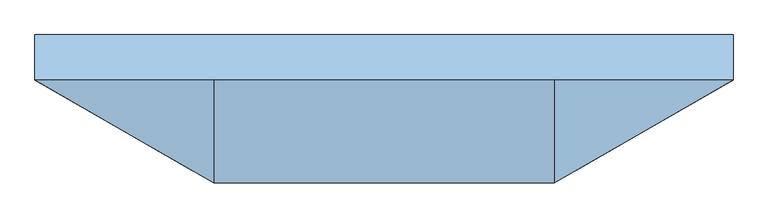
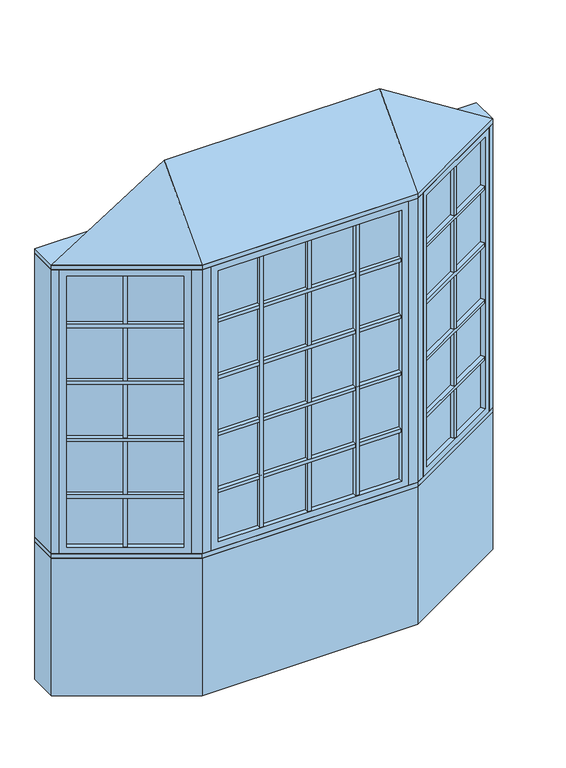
"""IFC4 building model written with IfcOpenShell, lengths in millimetres: window geometry, Pollard_Windows_Tudor Casement Bows and Bays : AML-BAY 30 AFR0616-12-600_GC."""

from ifc_helpers import new_model, si_unit, frame, origin, origin_with_axes, place, context, project, spatial, polyline, outline, extrude, faceted_brep, source, transform, mapped, element, save


def window_1ecaf045(model_context):
    return source(origin(), model_context, "Body", "SolidModel", [
        extrude(outline(polyline([(646.881999, -376.6297343), (635.881999, -357.5771754), (1102.1135794, -88.3982469), (1113.1135794, -107.4508058), (646.881999, -376.6297343)])), frame((0.0, 0.0, 1110.998), z_axis=(0.0, 0.0, 1.0), x_axis=(1.0, 0.0, 0.0)), (0.0, 0.0, 1.0), 18.0),
        extrude(outline(polyline([(633.341999, -353.1777664), (622.341999, -334.1252075), (1088.5735794, -64.946279), (1099.5735794, -83.9988379), (633.341999, -353.1777664)])), frame((0.0, 0.0, 1110.998), z_axis=(0.0, 0.0, 1.0), x_axis=(1.0, 0.0, 0.0)), (0.0, 0.0, 1.0), 18.0),
        extrude(outline(polyline([(646.881999, -376.6297343), (635.881999, -357.5771754), (1102.1135794, -88.3982469), (1113.1135794, -107.4508058), (646.881999, -376.6297343)])), frame((0.0, 0.0, 1430.998), z_axis=(0.0, 0.0, 1.0), x_axis=(1.0, 0.0, 0.0)), (0.0, 0.0, 1.0), 18.0),
        extrude(outline(polyline([(633.341999, -353.1777664), (622.341999, -334.1252075), (1088.5735794, -64.946279), (1099.5735794, -83.9988379), (633.341999, -353.1777664)])), frame((0.0, 0.0, 1430.998), z_axis=(0.0, 0.0, 1.0), x_axis=(1.0, 0.0, 0.0)), (0.0, 0.0, 1.0), 18.0),
        extrude(outline(polyline([(646.881999, -376.6297343), (635.881999, -357.5771754), (1102.1135794, -88.3982469), (1113.1135794, -107.4508058), (646.881999, -376.6297343)])), frame((0.0, 0.0, 1750.998), z_axis=(0.0, 0.0, 1.0), x_axis=(1.0, 0.0, 0.0)), (0.0, 0.0, 1.0), 18.0),
        extrude(outline(polyline([(633.341999, -353.1777664), (622.341999, -334.1252075), (1088.5735794, -64.946279), (1099.5735794, -83.9988379), (633.341999, -353.1777664)])), frame((0.0, 0.0, 1750.998), z_axis=(0.0, 0.0, 1.0), x_axis=(1.0, 0.0, 0.0)), (0.0, 0.0, 1.0), 18.0),
        extrude(outline(polyline([(646.881999, -376.6297343), (635.881999, -357.5771754), (1102.1135794, -88.3982469), (1113.1135794, -107.4508058), (646.881999, -376.6297343)])), frame((0.0, 0.0, 2070.998), z_axis=(0.0, 0.0, 1.0), x_axis=(1.0, 0.0, 0.0)), (0.0, 0.0, 1.0), 18.0),
        extrude(outline(polyline([(633.341999, -353.1777664), (622.341999, -334.1252075), (1088.5735794, -64.946279), (1099.5735794, -83.9988379), (633.341999, -353.1777664)])), frame((0.0, 0.0, 2070.998), z_axis=(0.0, 0.0, 1.0), x_axis=(1.0, 0.0, 0.0)), (0.0, 0.0, 1.0), 18.0),
        extrude(outline(polyline([(876.7920178, -218.4877112), (887.7920178, -237.5402701), (872.2035606, -246.5402701), (861.2035606, -227.4877112), (876.7920178, -218.4877112)])), frame((0.0, 0.0, 835.8628), z_axis=(0.0, 0.0, 1.0), x_axis=(1.0, 0.0, 0.0)), (0.0, 0.0, 1.0), 1528.2704),
        extrude(outline(polyline([(874.2520178, -214.0883021), (858.6635606, -223.0883021), (847.6635606, -204.0357432), (863.2520178, -195.0357432), (874.2520178, -214.0883021)])), frame((0.0, 0.0, 835.8628), z_axis=(0.0, 0.0, 1.0), x_axis=(1.0, 0.0, 0.0)), (0.0, 0.0, 1.0), 1528.2704),
        extrude(outline(polyline([(1113.112102, -82.0482469), (624.8834764, -363.9271754), (622.3434764, -359.5277664), (1110.572102, -77.6488379), (1113.112102, -82.0482469)])), frame((0.0, 0.0, 823.1628), z_axis=(0.0, 0.0, 1.0), x_axis=(1.0, 0.0, 0.0)), (0.0, 0.0, 1.0), 1553.6704),
        faceted_brep([(1102.1135794, -88.3982469, 835.8628), (1114.8135794, -110.3952922, 835.8628), (1114.8135794, -110.3952922, 2364.1332), (1102.1135794, -88.3982469, 2364.1332), (1110.572102, -77.6488379, 823.1628), (1113.112102, -82.0482469, 823.1628), (1113.112102, -82.0482469, 2376.8332), (1110.572102, -77.6488379, 2376.8332), (1086.8735794, -62.0017926, 835.8628), (1099.5735794, -83.9988379, 835.8628), (1099.5735794, -83.9988379, 2364.1332), (1086.8735794, -62.0017926, 2364.1332), (1145.8734073, -92.4628922, 799.998), (1117.9334073, -44.0693926, 799.998), (1117.9334073, -44.0693926, 2399.998), (1145.8734073, -92.4628922, 2399.998), (648.581999, -379.5742207, 2364.1332), (635.881999, -357.5771754, 2364.1332), (624.8834764, -363.9271754, 2376.8332), (622.3434764, -359.5277664, 2376.8332), (633.341999, -353.1777664, 2364.1332), (620.641999, -331.1807211, 2364.1332), (589.5821711, -349.1131211, 2399.998), (617.5221711, -397.5066207, 2399.998), (648.581999, -379.5742207, 835.8628), (635.881999, -357.5771754, 835.8628), (624.8834764, -363.9271754, 823.1628), (622.3434764, -359.5277664, 823.1628), (633.341999, -353.1777664, 835.8628), (620.641999, -331.1807211, 835.8628), (589.5821711, -349.1131211, 799.998), (617.5221711, -397.5066207, 799.998)], [[[0, 1, 2, 3]], [[4, 5, 6, 7]], [[8, 9, 10, 11]], [[12, 13, 14, 15]], [[3, 2, 16, 17]], [[7, 6, 18, 19]], [[11, 10, 20, 21]], [[15, 14, 22, 23]], [[17, 16, 24, 25]], [[19, 18, 26, 27]], [[21, 20, 28, 29]], [[23, 22, 30, 31]], [[25, 24, 1, 0]], [[5, 26, 18, 6], [3, 17, 25, 0]], [[27, 26, 5, 4]], [[7, 19, 27, 4], [9, 28, 20, 10]], [[29, 28, 9, 8]], [[13, 30, 22, 14], [11, 21, 29, 8]], [[31, 30, 13, 12]], [[15, 23, 31, 12], [1, 24, 16, 2]]]),
        extrude(outline(polyline([(264.0281504, -397.1066207), (264.0281504, -419.1066207), (246.0281504, -419.1066207), (246.0281504, -397.1066207), (264.0281504, -397.1066207)])), frame((0.0, 0.0, 835.8628), z_axis=(0.0, 0.0, 1.0), x_axis=(1.0, 0.0, 0.0)), (0.0, 0.0, 1.0), 1528.2704),
        extrude(outline(polyline([(264.0281504, -392.0266207), (246.0281504, -392.0266207), (246.0281504, -370.0266207), (264.0281504, -370.0266207), (264.0281504, -392.0266207)])), frame((0.0, 0.0, 835.8628), z_axis=(0.0, 0.0, 1.0), x_axis=(1.0, 0.0, 0.0)), (0.0, 0.0, 1.0), 1528.2704),
        extrude(outline(polyline([(-246.0281504, -397.1066207), (-246.0281504, -419.1066207), (-264.0281504, -419.1066207), (-264.0281504, -397.1066207), (-246.0281504, -397.1066207)])), frame((0.0, 0.0, 835.8628), z_axis=(0.0, 0.0, 1.0), x_axis=(1.0, 0.0, 0.0)), (0.0, 0.0, 1.0), 1528.2704),
        extrude(outline(polyline([(-246.0281504, -392.0266207), (-264.0281504, -392.0266207), (-264.0281504, -370.0266207), (-246.0281504, -370.0266207), (-246.0281504, -392.0266207)])), frame((0.0, 0.0, 835.8628), z_axis=(0.0, 0.0, 1.0), x_axis=(1.0, 0.0, 0.0)), (0.0, 0.0, 1.0), 1528.2704),
        extrude(outline(polyline([(-488.3561009, -419.1066207), (-488.3561009, -397.1066207), (488.3561009, -397.1066207), (488.3561009, -419.1066207), (-488.3561009, -419.1066207)])), frame((0.0, 0.0, 1110.998), z_axis=(0.0, 0.0, 1.0), x_axis=(1.0, 0.0, 0.0)), (0.0, 0.0, 1.0), 18.0),
        extrude(outline(polyline([(-488.3561009, -392.0266207), (-488.3561009, -370.0266207), (488.3561009, -370.0266207), (488.3561009, -392.0266207), (-488.3561009, -392.0266207)])), frame((0.0, 0.0, 1110.998), z_axis=(0.0, 0.0, 1.0), x_axis=(1.0, 0.0, 0.0)), (0.0, 0.0, 1.0), 18.0),
        extrude(outline(polyline([(-488.3561009, -419.1066207), (-488.3561009, -397.1066207), (488.3561009, -397.1066207), (488.3561009, -419.1066207), (-488.3561009, -419.1066207)])), frame((0.0, 0.0, 1430.998), z_axis=(0.0, 0.0, 1.0), x_axis=(1.0, 0.0, 0.0)), (0.0, 0.0, 1.0), 18.0),
        extrude(outline(polyline([(-488.3561009, -392.0266207), (-488.3561009, -370.0266207), (488.3561009, -370.0266207), (488.3561009, -392.0266207), (-488.3561009, -392.0266207)])), frame((0.0, 0.0, 1430.998), z_axis=(0.0, 0.0, 1.0), x_axis=(1.0, 0.0, 0.0)), (0.0, 0.0, 1.0), 18.0),
        extrude(outline(polyline([(-488.3561009, -419.1066207), (-488.3561009, -397.1066207), (488.3561009, -397.1066207), (488.3561009, -419.1066207), (-488.3561009, -419.1066207)])), frame((0.0, 0.0, 1750.998), z_axis=(0.0, 0.0, 1.0), x_axis=(1.0, 0.0, 0.0)), (0.0, 0.0, 1.0), 18.0),
        extrude(outline(polyline([(-488.3561009, -392.0266207), (-488.3561009, -370.0266207), (488.3561009, -370.0266207), (488.3561009, -392.0266207), (-488.3561009, -392.0266207)])), frame((0.0, 0.0, 1750.998), z_axis=(0.0, 0.0, 1.0), x_axis=(1.0, 0.0, 0.0)), (0.0, 0.0, 1.0), 18.0),
        extrude(outline(polyline([(-1113.1135794, -107.4508058), (-1102.1135794, -88.3982469), (-635.881999, -357.5771754), (-646.881999, -376.6297343), (-1113.1135794, -107.4508058)])), frame((0.0, 0.0, 1110.998), z_axis=(0.0, 0.0, 1.0), x_axis=(1.0, 0.0, 0.0)), (0.0, 0.0, 1.0), 18.0),
        extrude(outline(polyline([(-1099.5735794, -83.9988379), (-1088.5735794, -64.946279), (-622.341999, -334.1252075), (-633.341999, -353.1777664), (-1099.5735794, -83.9988379)])), frame((0.0, 0.0, 1110.998), z_axis=(0.0, 0.0, 1.0), x_axis=(1.0, 0.0, 0.0)), (0.0, 0.0, 1.0), 18.0),
        extrude(outline(polyline([(-1113.1135794, -107.4508058), (-1102.1135794, -88.3982469), (-635.881999, -357.5771754), (-646.881999, -376.6297343), (-1113.1135794, -107.4508058)])), frame((0.0, 0.0, 1430.998), z_axis=(0.0, 0.0, 1.0), x_axis=(1.0, 0.0, 0.0)), (0.0, 0.0, 1.0), 18.0),
        extrude(outline(polyline([(-1099.5735794, -83.9988379), (-1088.5735794, -64.946279), (-622.341999, -334.1252075), (-633.341999, -353.1777664), (-1099.5735794, -83.9988379)])), frame((0.0, 0.0, 1430.998), z_axis=(0.0, 0.0, 1.0), x_axis=(1.0, 0.0, 0.0)), (0.0, 0.0, 1.0), 18.0),
        extrude(outline(polyline([(-1113.1135794, -107.4508058), (-1102.1135794, -88.3982469), (-635.881999, -357.5771754), (-646.881999, -376.6297343), (-1113.1135794, -107.4508058)])), frame((0.0, 0.0, 1750.998), z_axis=(0.0, 0.0, 1.0), x_axis=(1.0, 0.0, 0.0)), (0.0, 0.0, 1.0), 18.0),
        extrude(outline(polyline([(-1099.5735794, -83.9988379), (-1088.5735794, -64.946279), (-622.341999, -334.1252075), (-633.341999, -353.1777664), (-1099.5735794, -83.9988379)])), frame((0.0, 0.0, 1750.998), z_axis=(0.0, 0.0, 1.0), x_axis=(1.0, 0.0, 0.0)), (0.0, 0.0, 1.0), 18.0),
        extrude(outline(polyline([(-1113.1135794, -107.4508058), (-1102.1135794, -88.3982469), (-635.881999, -357.5771754), (-646.881999, -376.6297343), (-1113.1135794, -107.4508058)])), frame((0.0, 0.0, 2070.998), z_axis=(0.0, 0.0, 1.0), x_axis=(1.0, 0.0, 0.0)), (0.0, 0.0, 1.0), 18.0),
        extrude(outline(polyline([(-1099.5735794, -83.9988379), (-1088.5735794, -64.946279), (-622.341999, -334.1252075), (-633.341999, -353.1777664), (-1099.5735794, -83.9988379)])), frame((0.0, 0.0, 2070.998), z_axis=(0.0, 0.0, 1.0), x_axis=(1.0, 0.0, 0.0)), (0.0, 0.0, 1.0), 18.0),
        extrude(outline(polyline([(-488.3561009, -419.1066207), (-488.3561009, -397.1066207), (488.3561009, -397.1066207), (488.3561009, -419.1066207), (-488.3561009, -419.1066207)])), frame((0.0, 0.0, 2070.998), z_axis=(0.0, 0.0, 1.0), x_axis=(1.0, 0.0, 0.0)), (0.0, 0.0, 1.0), 18.0),
        extrude(outline(polyline([(-488.3561009, -392.0266207), (-488.3561009, -370.0266207), (488.3561009, -370.0266207), (488.3561009, -392.0266207), (-488.3561009, -392.0266207)])), frame((0.0, 0.0, 2070.998), z_axis=(0.0, 0.0, 1.0), x_axis=(1.0, 0.0, 0.0)), (0.0, 0.0, 1.0), 18.0),
        extrude(outline(polyline([(-861.2035606, -227.4877112), (-872.2035606, -246.5402701), (-887.7920178, -237.5402701), (-876.7920178, -218.4877112), (-861.2035606, -227.4877112)])), frame((0.0, 0.0, 835.8628), z_axis=(0.0, 0.0, 1.0), x_axis=(1.0, 0.0, 0.0)), (0.0, 0.0, 1.0), 1528.2704),
        extrude(outline(polyline([(-858.6635606, -223.0883021), (-874.2520178, -214.0883021), (-863.2520178, -195.0357432), (-847.6635606, -204.0357432), (-858.6635606, -223.0883021)])), frame((0.0, 0.0, 835.8628), z_axis=(0.0, 0.0, 1.0), x_axis=(1.0, 0.0, 0.0)), (0.0, 0.0, 1.0), 1528.2704),
        extrude(outline(polyline([(9.0, -397.1066207), (9.0, -419.1066207), (-9.0, -419.1066207), (-9.0, -397.1066207), (9.0, -397.1066207)])), frame((0.0, 0.0, 835.8628), z_axis=(0.0, 0.0, 1.0), x_axis=(1.0, 0.0, 0.0)), (0.0, 0.0, 1.0), 1528.2704),
        extrude(outline(polyline([(9.0, -392.0266207), (-9.0, -392.0266207), (-9.0, -370.0266207), (9.0, -370.0266207), (9.0, -392.0266207)])), frame((0.0, 0.0, 835.8628), z_axis=(0.0, 0.0, 1.0), x_axis=(1.0, 0.0, 0.0)), (0.0, 0.0, 1.0), 1528.2704),
        extrude(outline(polyline([(-624.8834764, -363.9271754), (-1113.112102, -82.0482469), (-1110.572102, -77.6488379), (-622.3434764, -359.5277664), (-624.8834764, -363.9271754)])), frame((0.0, 0.0, 823.1628), z_axis=(0.0, 0.0, 1.0), x_axis=(1.0, 0.0, 0.0)), (0.0, 0.0, 1.0), 1553.6704),
        faceted_brep([(-633.341999, -353.1777664, 2364.1332), (-620.641999, -331.1807211, 2364.1332), (-620.641999, -331.1807211, 835.8628), (-633.341999, -353.1777664, 835.8628), (-624.8834764, -363.9271754, 2376.8332), (-622.3434764, -359.5277664, 2376.8332), (-622.3434764, -359.5277664, 823.1628), (-624.8834764, -363.9271754, 823.1628), (-648.581999, -379.5742207, 2364.1332), (-635.881999, -357.5771754, 2364.1332), (-635.881999, -357.5771754, 835.8628), (-648.581999, -379.5742207, 835.8628), (-589.5821711, -349.1131211, 2399.998), (-617.5221711, -397.5066207, 2399.998), (-617.5221711, -397.5066207, 799.998), (-589.5821711, -349.1131211, 799.998), (-1086.8735794, -62.0017926, 835.8628), (-1099.5735794, -83.9988379, 835.8628), (-1110.572102, -77.6488379, 823.1628), (-1113.112102, -82.0482469, 823.1628), (-1102.1135794, -88.3982469, 835.8628), (-1114.8135794, -110.3952922, 835.8628), (-1145.8734073, -92.4628922, 799.998), (-1117.9334073, -44.0693926, 799.998), (-1086.8735794, -62.0017926, 2364.1332), (-1099.5735794, -83.9988379, 2364.1332), (-1110.572102, -77.6488379, 2376.8332), (-1113.112102, -82.0482469, 2376.8332), (-1102.1135794, -88.3982469, 2364.1332), (-1114.8135794, -110.3952922, 2364.1332), (-1145.8734073, -92.4628922, 2399.998), (-1117.9334073, -44.0693926, 2399.998)], [[[0, 1, 2, 3]], [[4, 5, 6, 7]], [[8, 9, 10, 11]], [[12, 13, 14, 15]], [[3, 2, 16, 17]], [[7, 6, 18, 19]], [[11, 10, 20, 21]], [[15, 14, 22, 23]], [[17, 16, 24, 25]], [[19, 18, 26, 27]], [[21, 20, 28, 29]], [[23, 22, 30, 31]], [[15, 23, 31, 12], [1, 24, 16, 2]], [[25, 24, 1, 0]], [[5, 26, 18, 6], [3, 17, 25, 0]], [[27, 26, 5, 4]], [[7, 19, 27, 4], [9, 28, 20, 10]], [[29, 28, 9, 8]], [[13, 30, 22, 14], [11, 21, 29, 8]], [[31, 30, 13, 12]]]),
        extrude(outline(polyline([(501.0561009, -397.1066207), (-501.0561009, -397.1066207), (-501.0561009, -392.0266207), (501.0561009, -392.0266207), (501.0561009, -397.1066207)])), frame((0.0, 0.0, 823.1628), z_axis=(0.0, 0.0, 1.0), x_axis=(1.0, 0.0, 0.0)), (0.0, 0.0, 1.0), 1553.6704),
        faceted_brep([(488.3561009, -397.1066207, 835.8628), (488.3561009, -422.5066207, 835.8628), (488.3561009, -422.5066207, 2364.1332), (488.3561009, -397.1066207, 2364.1332), (501.0561009, -392.0266207, 823.1628), (501.0561009, -397.1066207, 823.1628), (501.0561009, -397.1066207, 2376.8332), (501.0561009, -392.0266207, 2376.8332), (488.3561009, -366.6266207, 835.8628), (488.3561009, -392.0266207, 835.8628), (488.3561009, -392.0266207, 2364.1332), (488.3561009, -366.6266207, 2364.1332), (524.2209009, -422.5066207, 799.998), (524.2209009, -366.6266207, 799.998), (524.2209009, -366.6266207, 2399.998), (524.2209009, -422.5066207, 2399.998), (-488.3561009, -422.5066207, 2364.1332), (-488.3561009, -397.1066207, 2364.1332), (-501.0561009, -397.1066207, 2376.8332), (-501.0561009, -392.0266207, 2376.8332), (-488.3561009, -392.0266207, 2364.1332), (-488.3561009, -366.6266207, 2364.1332), (-524.2209009, -366.6266207, 2399.998), (-524.2209009, -422.5066207, 2399.998), (-488.3561009, -422.5066207, 835.8628), (-488.3561009, -397.1066207, 835.8628), (-501.0561009, -397.1066207, 823.1628), (-501.0561009, -392.0266207, 823.1628), (-488.3561009, -392.0266207, 835.8628), (-488.3561009, -366.6266207, 835.8628), (-524.2209009, -366.6266207, 799.998), (-524.2209009, -422.5066207, 799.998)], [[[0, 1, 2, 3]], [[4, 5, 6, 7]], [[8, 9, 10, 11]], [[12, 13, 14, 15]], [[3, 2, 16, 17]], [[7, 6, 18, 19]], [[11, 10, 20, 21]], [[15, 14, 22, 23]], [[17, 16, 24, 25]], [[19, 18, 26, 27]], [[21, 20, 28, 29]], [[23, 22, 30, 31]], [[15, 23, 31, 12], [1, 24, 16, 2]], [[25, 24, 1, 0]], [[5, 26, 18, 6], [3, 17, 25, 0]], [[27, 26, 5, 4]], [[7, 19, 27, 4], [9, 28, 20, 10]], [[29, 28, 9, 8]], [[13, 30, 22, 14], [11, 21, 29, 8]], [[31, 30, 13, 12]]]),
        faceted_brep([(1176.5, -74.7806207, 2425.398), (574.2209009, -422.5066207, 2425.398), (-574.2209009, -422.5066207, 2425.398), (-1176.5, -74.7806207, 2425.398), (-574.2209009, -74.7806207, 2806.398), (574.2209009, -74.7806207, 2806.398)], [[[0, 1, 2, 3]], [[3, 2, 4]], [[2, 1, 5, 4]], [[1, 0, 5]], [[0, 3, 4, 5]]]),
        extrude(outline(polyline([(-1176.5, 77.6193793), (1176.5, 77.6193793), (1176.5, -74.7806207), (574.2209009, -422.5066207), (-574.2209009, -422.5066207), (-1176.5, -74.7806207), (-1176.5, 77.6193793)])), frame((0.0, 0.0, 2399.998), z_axis=(0.0, 0.0, 1.0), x_axis=(1.0, 0.0, 0.0)), (0.0, 0.0, 1.0), 25.4),
        extrude(outline(polyline([(-1176.5, -74.7806207), (-1176.5, 77.6193793), (-1135.6645431, 77.6193793), (-1135.6645431, -74.7806207), (-1145.8734073, -92.4628922), (-1176.5, -74.7806207)])), frame((0.0, 0.0, 799.998), z_axis=(0.0, 0.0, 1.0), x_axis=(1.0, 0.0, 0.0)), (0.0, 0.0, 1.0), 1600.0),
        extrude(outline(polyline([(1176.5, 77.6193793), (1176.5, -74.7806207), (1145.8734073, -92.4628922), (1135.6645431, -74.7806207), (1135.6645431, 77.6193793), (1176.5, 77.6193793)])), frame((0.0, 0.0, 799.998), z_axis=(0.0, 0.0, 1.0), x_axis=(1.0, 0.0, 0.0)), (0.0, 0.0, 1.0), 1600.0),
        extrude(outline(polyline([(574.2209009, -422.5066207), (524.2209009, -422.5066207), (524.2209009, -372.5066207), (560.8234413, -372.5066207), (592.5221711, -354.2053505), (617.5221711, -397.5066207), (574.2209009, -422.5066207)])), frame((0.0, 0.0, 799.998), z_axis=(0.0, 0.0, 1.0), x_axis=(1.0, 0.0, 0.0)), (0.0, 0.0, 1.0), 1600.0),
        extrude(outline(polyline([(-574.2209009, -422.5066207), (-617.5221711, -397.5066207), (-592.5221711, -354.2053505), (-560.8234413, -372.5066207), (-524.2209009, -372.5066207), (-524.2209009, -422.5066207), (-574.2209009, -422.5066207)])), frame((0.0, 0.0, 799.998), z_axis=(0.0, 0.0, 1.0), x_axis=(1.0, 0.0, 0.0)), (0.0, 0.0, 1.0), 1600.0),
        extrude(outline(polyline([(-574.2209009, -422.5066207), (-1176.5, -74.7806207), (-1176.5, 77.6193793), (-1135.6645431, 77.6193793), (-533.385444, -270.1066207), (533.385444, -270.1066207), (1135.6645431, 77.6193793), (1176.5, 77.6193793), (1176.5, -74.7806207), (574.2209009, -422.5066207), (-574.2209009, -422.5066207)])), frame((0.0, 0.0, 774.598), z_axis=(0.0, 0.0, 1.0), x_axis=(1.0, 0.0, 0.0)), (0.0, 0.0, 1.0), 25.4),
        extrude(outline(polyline([(-1176.5, -74.7806207), (-1176.5, 77.6193793), (-1135.6645431, 77.6193793), (-533.385444, -270.1066207), (533.385444, -270.1066207), (1135.6645431, 77.6193793), (1176.5, 77.6193793), (1176.5, -74.7806207), (574.2209009, -422.5066207), (-574.2209009, -422.5066207), (-1176.5, -74.7806207)])), origin_with_axes(), (0.0, 0.0, 1.0), 774.598),
    ])


if __name__ == "__main__":
    model = new_model("IFC4")
    model_context = context("Model", 3, world=origin())
    ifc_project = project(units=[si_unit("LENGTHUNIT", "METRE", prefix="MILLI")], contexts=[model_context])
    site = spatial("IfcSite", under=ifc_project)
    building = spatial("IfcBuilding", under=site)
    placement = place(None, origin())
    window_shape = window_1ecaf045(model_context)
    element("IfcWindow", 1, ObjectType="Pollard_Windows_Tudor Casement Bows and Bays : AML-BAY 30 AFR0616-12-600_GC", at=placement, inside=building, context=model_context, shape_type="MappedRepresentation", body=[
        mapped(window_shape, transform((0.0, 0.0, 0.0), x_axis=(1.0, 0.0, 0.0), y_axis=(0.0, 1.0, 0.0), z_axis=(0.0, 0.0, 1.0))),
    ])
    save(model, "model.ifc")
